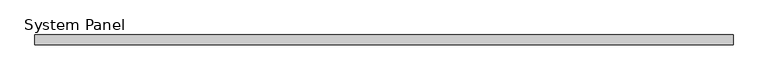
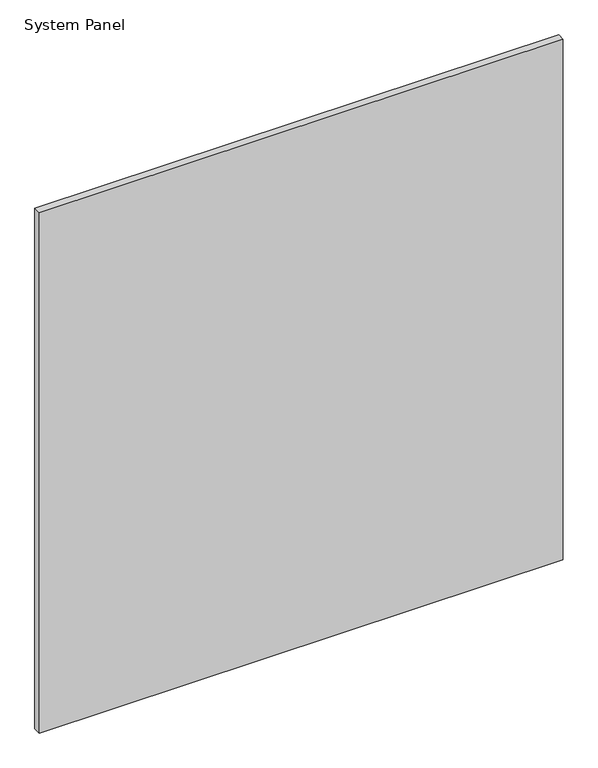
"""IFC4 building model written with IfcOpenShell, lengths in millimetres: plate geometry, System Panel : Panel_Glazed_Generic Showcase_30mm."""

from ifc_helpers import new_model, si_unit, origin, origin_with_axes, place, context, project, spatial, polyline, outline, extrude, source, transform, mapped, element, save


def system_panel_5b1b3f82(model_context):
    return source(origin(), model_context, "Body", "SweptSolid", [
        extrude(outline(polyline([(1048.0030369, -30.0), (-1048.0030369, -30.0), (-1048.0030369, 0.0), (1048.0030369, 0.0), (1048.0030369, -30.0)])), origin_with_axes(), (0.0, 0.0, 1.0), 2200.0),
    ])


if __name__ == "__main__":
    model = new_model("IFC4")
    model_context = context("Model", 3, world=origin())
    ifc_project = project(units=[si_unit("LENGTHUNIT", "METRE", prefix="MILLI")], contexts=[model_context])
    site = spatial("IfcSite", under=ifc_project)
    building = spatial("IfcBuilding", under=site)
    placement = place(None, origin())
    system_panel_shape = system_panel_5b1b3f82(model_context)
    element("IfcPlate", 1, ObjectType="System Panel : Panel_Glazed_Generic Showcase_30mm", at=placement, inside=building, context=model_context, shape_type="MappedRepresentation", body=[
        mapped(system_panel_shape, transform((0.0, 0.0, 0.0), x_axis=(1.0, 0.0, 0.0), y_axis=(0.0, 1.0, 0.0), z_axis=(0.0, 0.0, 1.0))),
    ])
    save(model, "model.ifc")
